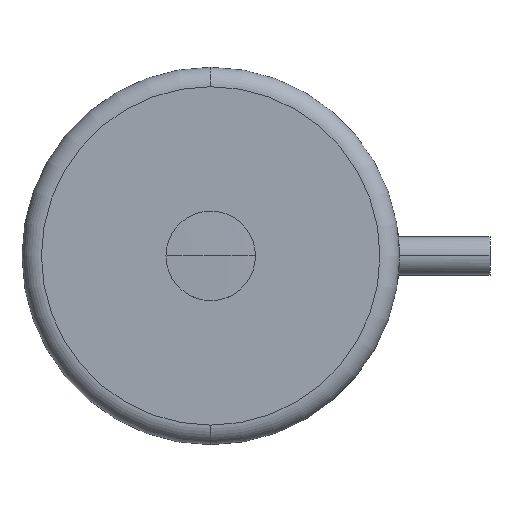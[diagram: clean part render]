
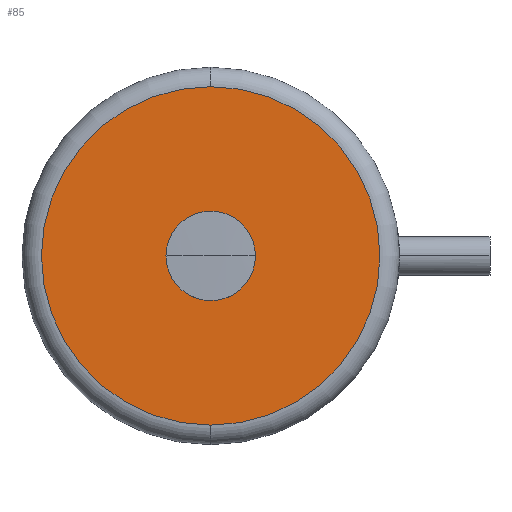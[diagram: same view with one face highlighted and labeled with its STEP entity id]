
A CAD part, top view. The second image highlights one B-rep face of the part: STEP entity #85.
In plain terms, the highlighted planar face has unit normal (0, 0, 1).
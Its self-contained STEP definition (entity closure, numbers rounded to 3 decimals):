
#85=ADVANCED_FACE('',(#113,#114),#115,.T.);
#113=FACE_OUTER_BOUND('',#147,.T.);
#114=FACE_BOUND('',#148,.T.);
#115=PLANE('',#149);
#147=EDGE_LOOP('',(#233,#234,#235));
#148=EDGE_LOOP('',(#236,#237));
#149=AXIS2_PLACEMENT_3D('',#238,#239,#240);
#233=ORIENTED_EDGE('',*,*,#288,.T.);
#234=ORIENTED_EDGE('',*,*,#309,.T.);
#235=ORIENTED_EDGE('',*,*,#289,.T.);
#236=ORIENTED_EDGE('',*,*,#310,.F.);
#237=ORIENTED_EDGE('',*,*,#282,.F.);
#238=CARTESIAN_POINT('',(-2.175,0.,2.6));
#239=DIRECTION('',(0.,0.,1.0));
#240=DIRECTION('',(-1.0,0.,0.));
#282=EDGE_CURVE('',#319,#321,#322,.T.);
#288=EDGE_CURVE('',#333,#331,#334,.T.);
#289=EDGE_CURVE('',#325,#333,#335,.T.);
#309=EDGE_CURVE('',#331,#325,#367,.T.);
#310=EDGE_CURVE('',#321,#319,#368,.T.);
#319=VERTEX_POINT('',#377);
#321=VERTEX_POINT('',#380);
#322=CIRCLE('',#381,1.15);
#325=VERTEX_POINT('',#385);
#331=VERTEX_POINT('',#391);
#333=VERTEX_POINT('',#393);
#334=CIRCLE('',#394,4.35);
#335=CIRCLE('',#395,4.35);
#367=CIRCLE('',#469,4.35);
#368=CIRCLE('',#470,1.15);
#377=CARTESIAN_POINT('',(1.15,0.,2.6));
#380=CARTESIAN_POINT('',(-1.15,0.,2.6));
#381=AXIS2_PLACEMENT_3D('',#483,#484,#485);
#385=CARTESIAN_POINT('',(0.,4.35,2.6));
#391=CARTESIAN_POINT('',(0.,-4.35,2.6));
#393=CARTESIAN_POINT('',(-4.35,0.,2.6));
#394=AXIS2_PLACEMENT_3D('',#499,#500,#501);
#395=AXIS2_PLACEMENT_3D('',#502,#503,#504);
#469=AXIS2_PLACEMENT_3D('',#539,#540,#541);
#470=AXIS2_PLACEMENT_3D('',#542,#543,#544);
#483=CARTESIAN_POINT('',(0.0,0.,2.6));
#484=DIRECTION('',(0.,0.,1.0));
#485=DIRECTION('',(1.0,0.,0.));
#499=CARTESIAN_POINT('',(0.,0.,2.6));
#500=DIRECTION('',(0.,0.,1.0));
#501=DIRECTION('',(-1.0,0.,0.0));
#502=CARTESIAN_POINT('',(0.,0.,2.6));
#503=DIRECTION('',(0.,0.,1.0));
#504=DIRECTION('',(-1.0,0.,0.0));
#539=CARTESIAN_POINT('',(0.,0.,2.6));
#540=DIRECTION('',(0.,0.,1.0));
#541=DIRECTION('',(-1.0,0.,0.0));
#542=CARTESIAN_POINT('',(0.0,0.,2.6));
#543=DIRECTION('',(0.,0.,1.0));
#544=DIRECTION('',(1.0,0.,0.));
